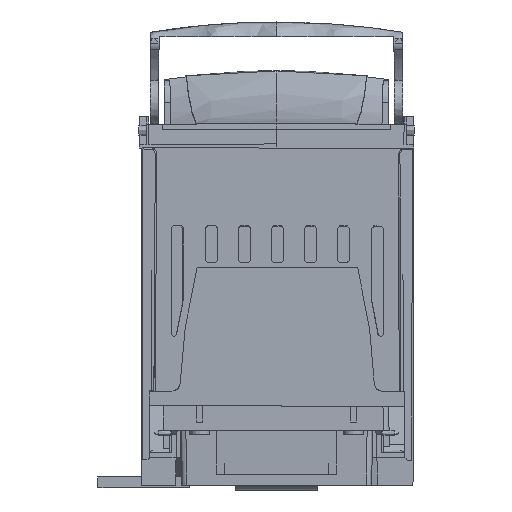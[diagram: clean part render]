
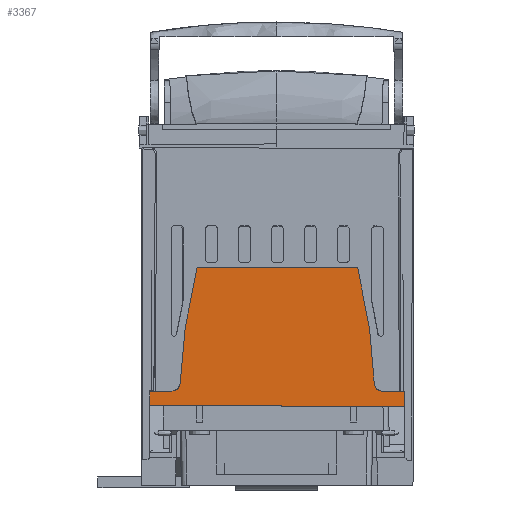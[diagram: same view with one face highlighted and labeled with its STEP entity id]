
A CAD part, left-side view. The second image highlights one B-rep face of the part: STEP entity #3367.
In plain terms, the highlighted planar face has unit normal (-1, 0, 0).
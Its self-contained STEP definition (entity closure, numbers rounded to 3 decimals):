
#2449=CIRCLE('',#45648,3.);
#2465=CIRCLE('',#45823,0.5);
#2466=CIRCLE('',#45824,0.5);
#2467=CIRCLE('',#45825,3.);
#3367=ADVANCED_FACE('',(#7139),#5465,.F.);
#5465=PLANE('',#45826);
#7139=FACE_OUTER_BOUND('',#9391,.T.);
#9391=EDGE_LOOP('',(#15172,#15173,#15174,#15175,#15176,#15177,#15178,#15179,
#15180,#15181,#15182,#15183,#15184,#15185));
#15172=ORIENTED_EDGE('',*,*,#31507,.T.);
#15173=ORIENTED_EDGE('',*,*,#31508,.F.);
#15174=ORIENTED_EDGE('',*,*,#31509,.T.);
#15175=ORIENTED_EDGE('',*,*,#31510,.F.);
#15176=ORIENTED_EDGE('',*,*,#31511,.T.);
#15177=ORIENTED_EDGE('',*,*,#31512,.F.);
#15178=ORIENTED_EDGE('',*,*,#31513,.T.);
#15179=ORIENTED_EDGE('',*,*,#31514,.F.);
#15180=ORIENTED_EDGE('',*,*,#31515,.T.);
#15181=ORIENTED_EDGE('',*,*,#31516,.T.);
#15182=ORIENTED_EDGE('',*,*,#31517,.F.);
#15183=ORIENTED_EDGE('',*,*,#30844,.F.);
#15184=ORIENTED_EDGE('',*,*,#30840,.T.);
#15185=ORIENTED_EDGE('',*,*,#30837,.F.);
#26021=VERTEX_POINT('',#62591);
#26023=VERTEX_POINT('',#62594);
#26025=VERTEX_POINT('',#62603);
#26027=VERTEX_POINT('',#62610);
#26493=VERTEX_POINT('',#64046);
#26494=VERTEX_POINT('',#64048);
#26495=VERTEX_POINT('',#64050);
#26496=VERTEX_POINT('',#64052);
#26497=VERTEX_POINT('',#64054);
#26498=VERTEX_POINT('',#64056);
#26499=VERTEX_POINT('',#64058);
#26500=VERTEX_POINT('',#64060);
#26501=VERTEX_POINT('',#64062);
#26502=VERTEX_POINT('',#64064);
#30837=EDGE_CURVE('',#26021,#26023,#2449,.T.);
#30840=EDGE_CURVE('',#26025,#26023,#37039,.T.);
#30844=EDGE_CURVE('',#26025,#26027,#37043,.T.);
#31507=EDGE_CURVE('',#26021,#26493,#37630,.T.);
#31508=EDGE_CURVE('',#26494,#26493,#37631,.T.);
#31509=EDGE_CURVE('',#26494,#26495,#2465,.T.);
#31510=EDGE_CURVE('',#26496,#26495,#37632,.T.);
#31511=EDGE_CURVE('',#26496,#26497,#2466,.T.);
#31512=EDGE_CURVE('',#26498,#26497,#37633,.T.);
#31513=EDGE_CURVE('',#26498,#26499,#37634,.T.);
#31514=EDGE_CURVE('',#26500,#26499,#2467,.T.);
#31515=EDGE_CURVE('',#26500,#26501,#37635,.T.);
#31516=EDGE_CURVE('',#26501,#26502,#37636,.T.);
#31517=EDGE_CURVE('',#26027,#26502,#37637,.T.);
#37039=LINE('',#62602,#41550);
#37043=LINE('',#62609,#41554);
#37630=LINE('',#64045,#42141);
#37631=LINE('',#64047,#42142);
#37632=LINE('',#64051,#42143);
#37633=LINE('',#64055,#42144);
#37634=LINE('',#64057,#42145);
#37635=LINE('',#64061,#42146);
#37636=LINE('',#64063,#42147);
#37637=LINE('',#64065,#42148);
#41550=VECTOR('',#50051,1.);
#41554=VECTOR('',#50057,1.);
#42141=VECTOR('',#50988,1.);
#42142=VECTOR('',#50989,1.);
#42143=VECTOR('',#50992,1.);
#42144=VECTOR('',#50995,1.);
#42145=VECTOR('',#50996,1.);
#42146=VECTOR('',#50999,1.);
#42147=VECTOR('',#51000,1.);
#42148=VECTOR('',#51001,1.);
#45648=AXIS2_PLACEMENT_3D('',#62593,#50046,#50047);
#45823=AXIS2_PLACEMENT_3D('',#64049,#50990,#50991);
#45824=AXIS2_PLACEMENT_3D('',#64053,#50993,#50994);
#45825=AXIS2_PLACEMENT_3D('',#64059,#50997,#50998);
#45826=AXIS2_PLACEMENT_3D('',#64066,#51002,#51003);
#50046=DIRECTION('',(-1.,0.,0.));
#50047=DIRECTION('',(0.,1.,0.002));
#50051=DIRECTION('',(0.,1.,0.002));
#50057=DIRECTION('',(0.,-0.003,-1.));
#50988=DIRECTION('',(0.,0.085,0.996));
#50989=DIRECTION('',(0.,-0.189,-0.982));
#50990=DIRECTION('',(-1.,0.,0.));
#50991=DIRECTION('',(0.,1.,0.002));
#50992=DIRECTION('',(0.,-1.,-0.002));
#50993=DIRECTION('',(-1.,0.,0.));
#50994=DIRECTION('',(0.,1.,0.002));
#50995=DIRECTION('',(0.,-0.193,0.981));
#50996=DIRECTION('',(0.,0.089,-0.996));
#50997=DIRECTION('',(-1.,0.,0.));
#50998=DIRECTION('',(0.,1.,0.002));
#50999=DIRECTION('',(0.,1.,0.002));
#51000=DIRECTION('',(0.,0.006,-1.));
#51001=DIRECTION('',(0.,1.,0.002));
#51002=DIRECTION('',(1.,0.,0.));
#51003=DIRECTION('',(0.,-1.,-0.002));
#62591=CARTESIAN_POINT('',(-277.559,-35.616,36.814));
#62593=CARTESIAN_POINT('',(-277.559,-38.605,37.07));
#62594=CARTESIAN_POINT('',(-277.559,-38.6,34.07));
#62602=CARTESIAN_POINT('',(-277.559,-46.262,34.057));
#62603=CARTESIAN_POINT('',(-277.559,-46.666,34.056));
#62609=CARTESIAN_POINT('',(-277.559,-46.424,126.591));
#62610=CARTESIAN_POINT('',(-277.559,-46.68,28.756));
#64045=CARTESIAN_POINT('',(-277.559,-35.833,34.288));
#64046=CARTESIAN_POINT('',(-277.559,-33.912,56.688));
#64047=CARTESIAN_POINT('',(-277.559,-33.912,56.688));
#64048=CARTESIAN_POINT('',(-277.56,-29.654,78.801));
#64049=CARTESIAN_POINT('',(-277.56,-29.163,78.706));
#64050=CARTESIAN_POINT('',(-277.56,-29.164,79.206));
#64051=CARTESIAN_POINT('',(-277.56,-0.341,79.257));
#64052=CARTESIAN_POINT('',(-277.561,28.482,79.307));
#64053=CARTESIAN_POINT('',(-277.561,28.483,78.807));
#64054=CARTESIAN_POINT('',(-277.561,28.973,78.903));
#64055=CARTESIAN_POINT('',(-277.561,33.309,56.805));
#64056=CARTESIAN_POINT('',(-277.561,33.309,56.805));
#64057=CARTESIAN_POINT('',(-277.561,35.307,34.412));
#64058=CARTESIAN_POINT('',(-277.561,35.082,36.937));
#64059=CARTESIAN_POINT('',(-277.561,38.07,37.204));
#64060=CARTESIAN_POINT('',(-277.561,38.075,34.204));
#64061=CARTESIAN_POINT('',(-277.561,45.738,34.217));
#64062=CARTESIAN_POINT('',(-277.561,46.131,34.218));
#64063=CARTESIAN_POINT('',(-277.561,45.58,124.343));
#64064=CARTESIAN_POINT('',(-277.561,46.163,28.918));
#64065=CARTESIAN_POINT('',(-277.558,-89.74,28.681));
#64066=CARTESIAN_POINT('',(-277.56,-0.254,29.237));
